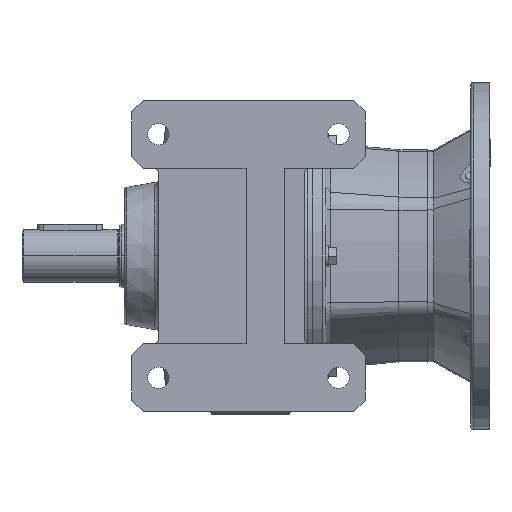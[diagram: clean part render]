
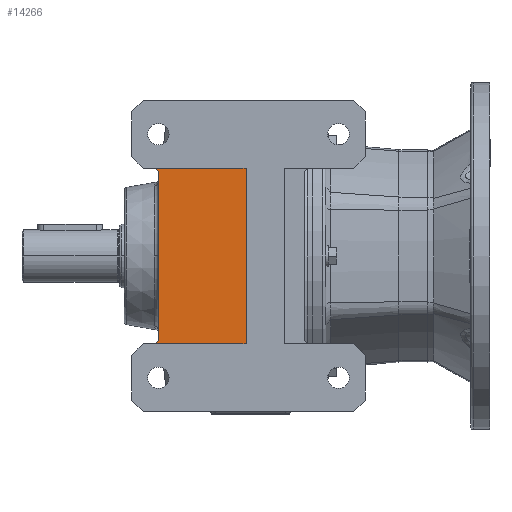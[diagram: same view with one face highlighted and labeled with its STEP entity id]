
A CAD part, front view. The second image highlights one B-rep face of the part: STEP entity #14266.
In plain terms, the highlighted planar face has unit normal (0, -1, 0).
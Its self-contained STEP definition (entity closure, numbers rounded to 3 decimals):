
#1586 = CARTESIAN_POINT ( 'NONE',  ( -5., -111., -85. ) ) ;
#1587 = DIRECTION ( 'NONE',  ( 0., 1., 0. ) ) ;
#1588 = DIRECTION ( 'NONE',  ( -1., 0., 0. ) ) ;
#1675 = LINE ( 'NONE', #1676, #29945 ) ;
#1676 = CARTESIAN_POINT ( 'NONE',  ( 212.5, -111., -90. ) ) ;
#1677 = DIRECTION ( 'NONE',  ( -1., 0., 0. ) ) ;
#2895 = EDGE_CURVE ( 'NONE', #8272, #8264, #48515, .T. ) ;
#4427 = EDGE_CURVE ( 'NONE', #8259, #8262, #36502, .T. ) ;
#4723 = EDGE_CURVE ( 'NONE', #8272, #8261, #86104, .T. ) ;
#4733 = EDGE_CURVE ( 'NONE', #8264, #8259, #66524, .T. ) ;
#4902 = EDGE_CURVE ( 'NONE', #8262, #8260, #66557, .T. ) ;
#4923 = EDGE_CURVE ( 'NONE', #8261, #8260, #1675, .T. ) ;
#8259 = VERTEX_POINT ( 'NONE', #64456 ) ;
#8260 = VERTEX_POINT ( 'NONE', #64458 ) ;
#8261 = VERTEX_POINT ( 'NONE', #64460 ) ;
#8262 = VERTEX_POINT ( 'NONE', #64462 ) ;
#8264 = VERTEX_POINT ( 'NONE', #64466 ) ;
#8272 = VERTEX_POINT ( 'NONE', #64482 ) ;
#9743 = FACE_OUTER_BOUND ( 'NONE', #12169, .T. ) ;
#9747 = AXIS2_PLACEMENT_3D ( 'NONE', #25966, #25967, #25968 ) ;
#12169 = EDGE_LOOP ( 'NONE', ( #16355, #16046, #16685, #16669, #16122, #16143 ) ) ;
#14266 = ADVANCED_FACE ( 'NONE', ( #9743 ), #25965, .F. ) ;
#16046 = ORIENTED_EDGE ( 'NONE', *, *, #2895, .T. ) ;
#16122 = ORIENTED_EDGE ( 'NONE', *, *, #4902, .T. ) ;
#16143 = ORIENTED_EDGE ( 'NONE', *, *, #4923, .F. ) ;
#16355 = ORIENTED_EDGE ( 'NONE', *, *, #4723, .F. ) ;
#16669 = ORIENTED_EDGE ( 'NONE', *, *, #4427, .T. ) ;
#16685 = ORIENTED_EDGE ( 'NONE', *, *, #4733, .T. ) ;
#20029 = AXIS2_PLACEMENT_3D ( 'NONE', #86255, #86256, #86257 ) ;
#20035 = VECTOR ( 'NONE', #86106, 1000. ) ;
#25965 = PLANE ( 'NONE',  #9747 ) ;
#25966 = CARTESIAN_POINT ( 'NONE',  ( 212.5, -111., -90. ) ) ;
#25967 = DIRECTION ( 'NONE',  ( 0., 1., 0. ) ) ;
#25968 = DIRECTION ( 'NONE',  ( -1., 0., 0. ) ) ;
#29945 = VECTOR ( 'NONE', #1677, 1000. ) ;
#33417 = VECTOR ( 'NONE', #48517, 1000. ) ;
#33630 = AXIS2_PLACEMENT_3D ( 'NONE', #1586, #1587, #1588 ) ;
#36502 = LINE ( 'NONE', #36503, #82706 ) ;
#36503 = CARTESIAN_POINT ( 'NONE',  ( 0., -111., -90. ) ) ;
#36504 = DIRECTION ( 'NONE',  ( 0., 0., -1. ) ) ;
#48515 = LINE ( 'NONE', #48516, #33417 ) ;
#48516 = CARTESIAN_POINT ( 'NONE',  ( 212.5, -111., 90. ) ) ;
#48517 = DIRECTION ( 'NONE',  ( -1., 0., 0. ) ) ;
#64456 = CARTESIAN_POINT ( 'NONE',  ( 0., -111., 85. ) ) ;
#64458 = CARTESIAN_POINT ( 'NONE',  ( -5., -111., -90. ) ) ;
#64460 = CARTESIAN_POINT ( 'NONE',  ( 90., -111., -90. ) ) ;
#64462 = CARTESIAN_POINT ( 'NONE',  ( 0., -111., -85. ) ) ;
#64466 = CARTESIAN_POINT ( 'NONE',  ( -5., -111., 90. ) ) ;
#64482 = CARTESIAN_POINT ( 'NONE',  ( 90., -111., 90. ) ) ;
#66524 = CIRCLE ( 'NONE', #20029, 5. ) ;
#66557 = CIRCLE ( 'NONE', #33630, 5. ) ;
#82706 = VECTOR ( 'NONE', #36504, 1000. ) ;
#86104 = LINE ( 'NONE', #86105, #20035 ) ;
#86105 = CARTESIAN_POINT ( 'NONE',  ( 90., -111., 0. ) ) ;
#86106 = DIRECTION ( 'NONE',  ( 0., 0., -1. ) ) ;
#86255 = CARTESIAN_POINT ( 'NONE',  ( -5., -111., 85. ) ) ;
#86256 = DIRECTION ( 'NONE',  ( 0., 1., 0. ) ) ;
#86257 = DIRECTION ( 'NONE',  ( -1., 0., 0. ) ) ;
